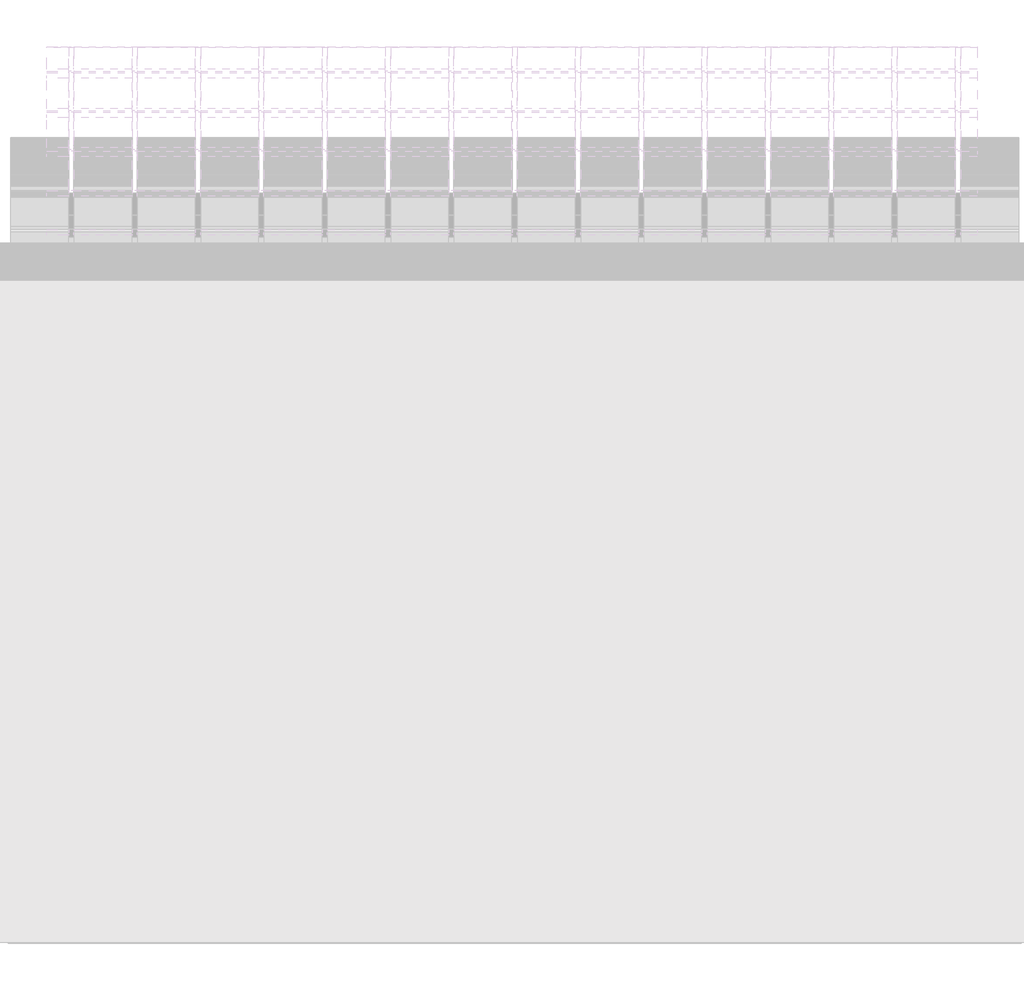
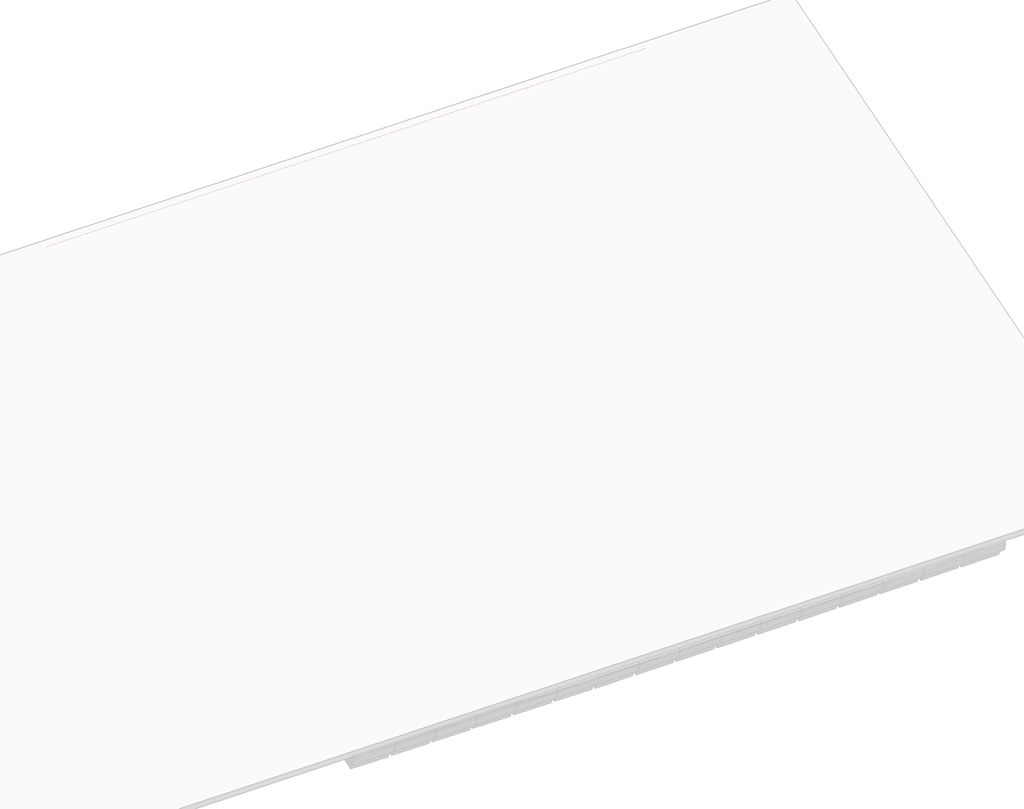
# One storey, part 46 of 57: 81 members, 43 plates.
"""IFC4 building model written with IfcOpenShell, lengths in millimetres."""

from ifc_helpers import new_model, si_unit, origin, place, context, project, spatial, transform, mapped, element, save
from components import rectangular_mullion_59984080, rectangular_mullion_2d2423ea, rectangular_mullion_caibro_e4384bba, rectangular_mullion_caibro_0993a3cf, rectangular_mullion_caibro_9bd7bc61, empty_system_panel_vazio_178faf58, empty_system_panel_vazio_2c78850d

model = new_model("IFC4")

# Units and contexts
model_context = context("Model", 3, world=origin())
ifc_project = project(units=[si_unit("LENGTHUNIT", "METRE", prefix="MILLI")], contexts=[model_context])

# Site, building, storey
site = spatial("IfcSite", under=ifc_project)
building = spatial("IfcBuilding", under=site)
storey = spatial("IfcBuildingStorey", under=building, Name="Nível 2", Elevation=4100.0)

# Members
placement = place(None, origin())
rectangular_mullion_shape = rectangular_mullion_59984080(model_context)
element("IfcMember", 1, ObjectType="Rectangular Mullion : Ripa", at=placement, inside=storey, context=model_context, shape_type="MappedRepresentation", body=[
    mapped(rectangular_mullion_shape, transform((36405.8565248, 8162.5832694, 3598.8241594), x_axis=(0.0, 0.9578262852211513, 0.2873478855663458), y_axis=(0.0, 0.2873478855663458, -0.9578262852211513), z_axis=(-1.0, 0.0, 0.0))),
])
element("IfcMember", 2, ObjectType="Rectangular Mullion : Ripa", at=placement, inside=storey, context=model_context, shape_type="MappedRepresentation", body=[
    mapped(rectangular_mullion_shape, transform((37002.9112812, 8162.5832694, 3598.8241594), x_axis=(0.0, 0.9578262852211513, 0.2873478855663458), y_axis=(0.0, 0.2873478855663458, -0.9578262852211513), z_axis=(-1.0, 0.0, 0.0))),
])
element("IfcMember", 3, ObjectType="Rectangular Mullion : Ripa", at=placement, inside=storey, context=model_context, shape_type="MappedRepresentation", body=[
    mapped(rectangular_mullion_shape, transform((37599.9660377, 8162.5832694, 3598.8241594), x_axis=(0.0, 0.9578262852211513, 0.2873478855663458), y_axis=(0.0, 0.2873478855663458, -0.9578262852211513), z_axis=(-1.0, 0.0, 0.0))),
])
element("IfcMember", 4, ObjectType="Rectangular Mullion : Ripa", at=placement, inside=storey, context=model_context, shape_type="MappedRepresentation", body=[
    mapped(rectangular_mullion_shape, transform((36405.8565248, 8532.7605281, 3709.877337), x_axis=(0.0, 0.9578262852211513, 0.2873478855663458), y_axis=(0.0, 0.2873478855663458, -0.9578262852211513), z_axis=(-1.0, 0.0, 0.0))),
])
element("IfcMember", 5, ObjectType="Rectangular Mullion : Ripa", at=placement, inside=storey, context=model_context, shape_type="MappedRepresentation", body=[
    mapped(rectangular_mullion_shape, transform((37002.9112812, 8532.7605281, 3709.877337), x_axis=(0.0, 0.9578262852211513, 0.2873478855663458), y_axis=(0.0, 0.2873478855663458, -0.9578262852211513), z_axis=(-1.0, 0.0, 0.0))),
])
element("IfcMember", 6, ObjectType="Rectangular Mullion : Ripa", at=placement, inside=storey, context=model_context, shape_type="MappedRepresentation", body=[
    mapped(rectangular_mullion_shape, transform((37599.9660377, 8532.7605281, 3709.877337), x_axis=(0.0, 0.9578262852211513, 0.2873478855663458), y_axis=(0.0, 0.2873478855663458, -0.9578262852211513), z_axis=(-1.0, 0.0, 0.0))),
])
element("IfcMember", 7, ObjectType="Rectangular Mullion : Ripa", at=placement, inside=storey, context=model_context, shape_type="MappedRepresentation", body=[
    mapped(rectangular_mullion_shape, transform((36405.8565248, 8902.9377868, 3820.9305146), x_axis=(0.0, 0.9578262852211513, 0.2873478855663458), y_axis=(0.0, 0.2873478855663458, -0.9578262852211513), z_axis=(-1.0, 0.0, 0.0))),
])
element("IfcMember", 8, ObjectType="Rectangular Mullion : Ripa", at=placement, inside=storey, context=model_context, shape_type="MappedRepresentation", body=[
    mapped(rectangular_mullion_shape, transform((37002.9112812, 8902.9377868, 3820.9305146), x_axis=(0.0, 0.9578262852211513, 0.2873478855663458), y_axis=(0.0, 0.2873478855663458, -0.9578262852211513), z_axis=(-1.0, 0.0, 0.0))),
])
element("IfcMember", 9, ObjectType="Rectangular Mullion : Ripa", at=placement, inside=storey, context=model_context, shape_type="MappedRepresentation", body=[
    mapped(rectangular_mullion_shape, transform((37599.9660377, 8902.9377868, 3820.9305146), x_axis=(0.0, 0.9578262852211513, 0.2873478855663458), y_axis=(0.0, 0.2873478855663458, -0.9578262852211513), z_axis=(-1.0, 0.0, 0.0))),
])
element("IfcMember", 10, ObjectType="Rectangular Mullion : Ripa", at=placement, inside=storey, context=model_context, shape_type="MappedRepresentation", body=[
    mapped(rectangular_mullion_shape, transform((36405.8565248, 9273.1150454, 3931.9836922), x_axis=(0.0, 0.9578262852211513, 0.2873478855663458), y_axis=(0.0, 0.2873478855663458, -0.9578262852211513), z_axis=(-1.0, 0.0, 0.0))),
])
element("IfcMember", 11, ObjectType="Rectangular Mullion : Ripa", at=placement, inside=storey, context=model_context, shape_type="MappedRepresentation", body=[
    mapped(rectangular_mullion_shape, transform((36405.8565248, 9643.2923041, 4043.0368698), x_axis=(0.0, 0.9578262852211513, 0.2873478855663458), y_axis=(0.0, 0.2873478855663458, -0.9578262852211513), z_axis=(-1.0, 0.0, 0.0))),
])
element("IfcMember", 12, ObjectType="Rectangular Mullion : Ripa", at=placement, inside=storey, context=model_context, shape_type="MappedRepresentation", body=[
    mapped(rectangular_mullion_shape, transform((34017.6374991, 10013.4695628, 4154.0900474), x_axis=(0.0, 0.9578262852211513, 0.2873478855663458), y_axis=(0.0, 0.2873478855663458, -0.9578262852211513), z_axis=(-1.0, 0.0, 0.0))),
])
element("IfcMember", 13, ObjectType="Rectangular Mullion : Ripa", at=placement, inside=storey, context=model_context, shape_type="MappedRepresentation", body=[
    mapped(rectangular_mullion_shape, transform((34614.6922555, 10013.4695628, 4154.0900474), x_axis=(0.0, 0.9578262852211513, 0.2873478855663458), y_axis=(0.0, 0.2873478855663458, -0.9578262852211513), z_axis=(-1.0, 0.0, 0.0))),
])
element("IfcMember", 14, ObjectType="Rectangular Mullion : Ripa", at=placement, inside=storey, context=model_context, shape_type="MappedRepresentation", body=[
    mapped(rectangular_mullion_shape, transform((35211.747012, 10013.4695628, 4154.0900474), x_axis=(0.0, 0.9578262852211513, 0.2873478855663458), y_axis=(0.0, 0.2873478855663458, -0.9578262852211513), z_axis=(-1.0, 0.0, 0.0))),
])
element("IfcMember", 15, ObjectType="Rectangular Mullion : Ripa", at=placement, inside=storey, context=model_context, shape_type="MappedRepresentation", body=[
    mapped(rectangular_mullion_shape, transform((35808.8017684, 10013.4695628, 4154.0900474), x_axis=(0.0, 0.9578262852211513, 0.2873478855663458), y_axis=(0.0, 0.2873478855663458, -0.9578262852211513), z_axis=(-1.0, 0.0, 0.0))),
])
element("IfcMember", 16, ObjectType="Rectangular Mullion : Ripa", at=placement, inside=storey, context=model_context, shape_type="MappedRepresentation", body=[
    mapped(rectangular_mullion_shape, transform((34017.6374991, 10383.6468214, 4265.143225), x_axis=(0.0, 0.9578262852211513, 0.2873478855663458), y_axis=(0.0, 0.2873478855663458, -0.9578262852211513), z_axis=(-1.0, 0.0, 0.0))),
])
element("IfcMember", 17, ObjectType="Rectangular Mullion : Ripa", at=placement, inside=storey, context=model_context, shape_type="MappedRepresentation", body=[
    mapped(rectangular_mullion_shape, transform((34614.6922555, 10383.6468214, 4265.143225), x_axis=(0.0, 0.9578262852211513, 0.2873478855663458), y_axis=(0.0, 0.2873478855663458, -0.9578262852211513), z_axis=(-1.0, 0.0, 0.0))),
])
element("IfcMember", 18, ObjectType="Rectangular Mullion : Ripa", at=placement, inside=storey, context=model_context, shape_type="MappedRepresentation", body=[
    mapped(rectangular_mullion_shape, transform((35211.747012, 10383.6468214, 4265.143225), x_axis=(0.0, 0.9578262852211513, 0.2873478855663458), y_axis=(0.0, 0.2873478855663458, -0.9578262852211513), z_axis=(-1.0, 0.0, 0.0))),
])
element("IfcMember", 19, ObjectType="Rectangular Mullion : Ripa", at=placement, inside=storey, context=model_context, shape_type="MappedRepresentation", body=[
    mapped(rectangular_mullion_shape, transform((35808.8017684, 10383.6468214, 4265.143225), x_axis=(0.0, 0.9578262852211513, 0.2873478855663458), y_axis=(0.0, 0.2873478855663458, -0.9578262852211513), z_axis=(-1.0, 0.0, 0.0))),
])
element("IfcMember", 20, ObjectType="Rectangular Mullion : Ripa", at=placement, inside=storey, context=model_context, shape_type="MappedRepresentation", body=[
    mapped(rectangular_mullion_shape, transform((34017.6374991, 10753.8240801, 4376.1964026), x_axis=(0.0, 0.9578262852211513, 0.2873478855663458), y_axis=(0.0, 0.2873478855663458, -0.9578262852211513), z_axis=(-1.0, 0.0, 0.0))),
])
element("IfcMember", 21, ObjectType="Rectangular Mullion : Ripa", at=placement, inside=storey, context=model_context, shape_type="MappedRepresentation", body=[
    mapped(rectangular_mullion_shape, transform((34614.6922555, 10753.8240801, 4376.1964026), x_axis=(0.0, 0.9578262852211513, 0.2873478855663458), y_axis=(0.0, 0.2873478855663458, -0.9578262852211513), z_axis=(-1.0, 0.0, 0.0))),
])
element("IfcMember", 22, ObjectType="Rectangular Mullion : Ripa", at=placement, inside=storey, context=model_context, shape_type="MappedRepresentation", body=[
    mapped(rectangular_mullion_shape, transform((35211.747012, 10753.8240801, 4376.1964026), x_axis=(0.0, 0.9578262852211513, 0.2873478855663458), y_axis=(0.0, 0.2873478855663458, -0.9578262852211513), z_axis=(-1.0, 0.0, 0.0))),
])
element("IfcMember", 23, ObjectType="Rectangular Mullion : Ripa", at=placement, inside=storey, context=model_context, shape_type="MappedRepresentation", body=[
    mapped(rectangular_mullion_shape, transform((35808.8017684, 10753.8240801, 4376.1964026), x_axis=(0.0, 0.9578262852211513, 0.2873478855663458), y_axis=(0.0, 0.2873478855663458, -0.9578262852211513), z_axis=(-1.0, 0.0, 0.0))),
])
element("IfcMember", 24, ObjectType="Rectangular Mullion : Ripa", at=placement, inside=storey, context=model_context, shape_type="MappedRepresentation", body=[
    mapped(rectangular_mullion_shape, transform((34017.6374991, 11124.0013387, 4487.2495802), x_axis=(0.0, 0.9578262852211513, 0.2873478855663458), y_axis=(0.0, 0.2873478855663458, -0.9578262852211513), z_axis=(-1.0, 0.0, 0.0))),
])
element("IfcMember", 25, ObjectType="Rectangular Mullion : Ripa", at=placement, inside=storey, context=model_context, shape_type="MappedRepresentation", body=[
    mapped(rectangular_mullion_shape, transform((34614.6922555, 11124.0013387, 4487.2495802), x_axis=(0.0, 0.9578262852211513, 0.2873478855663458), y_axis=(0.0, 0.2873478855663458, -0.9578262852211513), z_axis=(-1.0, 0.0, 0.0))),
])
element("IfcMember", 26, ObjectType="Rectangular Mullion : Ripa", at=placement, inside=storey, context=model_context, shape_type="MappedRepresentation", body=[
    mapped(rectangular_mullion_shape, transform((35211.747012, 11124.0013387, 4487.2495802), x_axis=(0.0, 0.9578262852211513, 0.2873478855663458), y_axis=(0.0, 0.2873478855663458, -0.9578262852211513), z_axis=(-1.0, 0.0, 0.0))),
])
element("IfcMember", 27, ObjectType="Rectangular Mullion : Ripa", at=placement, inside=storey, context=model_context, shape_type="MappedRepresentation", body=[
    mapped(rectangular_mullion_shape, transform((35808.8017684, 11124.0013387, 4487.2495802), x_axis=(0.0, 0.9578262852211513, 0.2873478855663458), y_axis=(0.0, 0.2873478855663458, -0.9578262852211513), z_axis=(-1.0, 0.0, 0.0))),
])
element("IfcMember", 28, ObjectType="Rectangular Mullion : Ripa", at=placement, inside=storey, context=model_context, shape_type="MappedRepresentation", body=[
    mapped(rectangular_mullion_shape, transform((34017.6374991, 11494.1785974, 4598.3027578), x_axis=(0.0, 0.9578262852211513, 0.2873478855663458), y_axis=(0.0, 0.2873478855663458, -0.9578262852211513), z_axis=(-1.0, 0.0, 0.0))),
])
element("IfcMember", 29, ObjectType="Rectangular Mullion : Ripa", at=placement, inside=storey, context=model_context, shape_type="MappedRepresentation", body=[
    mapped(rectangular_mullion_shape, transform((34614.6922555, 11494.1785974, 4598.3027578), x_axis=(0.0, 0.9578262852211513, 0.2873478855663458), y_axis=(0.0, 0.2873478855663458, -0.9578262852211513), z_axis=(-1.0, 0.0, 0.0))),
])
element("IfcMember", 30, ObjectType="Rectangular Mullion : Ripa", at=placement, inside=storey, context=model_context, shape_type="MappedRepresentation", body=[
    mapped(rectangular_mullion_shape, transform((35211.747012, 11494.1785974, 4598.3027578), x_axis=(0.0, 0.9578262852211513, 0.2873478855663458), y_axis=(0.0, 0.2873478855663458, -0.9578262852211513), z_axis=(-1.0, 0.0, 0.0))),
])
element("IfcMember", 31, ObjectType="Rectangular Mullion : Ripa", at=placement, inside=storey, context=model_context, shape_type="MappedRepresentation", body=[
    mapped(rectangular_mullion_shape, transform((35808.8017684, 11494.1785974, 4598.3027578), x_axis=(0.0, 0.9578262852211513, 0.2873478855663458), y_axis=(0.0, 0.2873478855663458, -0.9578262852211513), z_axis=(-1.0, 0.0, 0.0))),
])
element("IfcMember", 32, ObjectType="Rectangular Mullion : Ripa", at=placement, inside=storey, context=model_context, shape_type="MappedRepresentation", body=[
    mapped(rectangular_mullion_shape, transform((34017.6374991, 11864.3558561, 4709.3559354), x_axis=(0.0, 0.9578262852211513, 0.2873478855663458), y_axis=(0.0, 0.2873478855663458, -0.9578262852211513), z_axis=(-1.0, 0.0, 0.0))),
])
element("IfcMember", 33, ObjectType="Rectangular Mullion : Ripa", at=placement, inside=storey, context=model_context, shape_type="MappedRepresentation", body=[
    mapped(rectangular_mullion_shape, transform((34614.6922555, 11864.3558561, 4709.3559354), x_axis=(0.0, 0.9578262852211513, 0.2873478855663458), y_axis=(0.0, 0.2873478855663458, -0.9578262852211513), z_axis=(-1.0, 0.0, 0.0))),
])
element("IfcMember", 34, ObjectType="Rectangular Mullion : Ripa", at=placement, inside=storey, context=model_context, shape_type="MappedRepresentation", body=[
    mapped(rectangular_mullion_shape, transform((35211.747012, 11864.3558561, 4709.3559354), x_axis=(0.0, 0.9578262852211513, 0.2873478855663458), y_axis=(0.0, 0.2873478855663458, -0.9578262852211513), z_axis=(-1.0, 0.0, 0.0))),
])
element("IfcMember", 35, ObjectType="Rectangular Mullion : Ripa", at=placement, inside=storey, context=model_context, shape_type="MappedRepresentation", body=[
    mapped(rectangular_mullion_shape, transform((35808.8017684, 11864.3558561, 4709.3559354), x_axis=(0.0, 0.9578262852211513, 0.2873478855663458), y_axis=(0.0, 0.2873478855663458, -0.9578262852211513), z_axis=(-1.0, 0.0, 0.0))),
])
rectangular_mullion_2_shape = rectangular_mullion_2d2423ea(model_context)
element("IfcMember", 36, ObjectType="Rectangular Mullion : Terça", at=placement, inside=storey, context=model_context, shape_type="MappedRepresentation", body=[
    mapped(rectangular_mullion_2_shape, transform((36405.8565248, 9159.0196393, 3835.1132313), x_axis=(0.0, 0.9578262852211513, 0.2873478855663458), y_axis=(0.0, 0.2873478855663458, -0.9578262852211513), z_axis=(-1.0, 0.0, 0.0))),
])
element("IfcMember", 37, ObjectType="Rectangular Mullion : Terça", at=placement, inside=storey, context=model_context, shape_type="MappedRepresentation", body=[
    mapped(rectangular_mullion_2_shape, transform((33420.5827427, 11285.144311, 4472.9506328), x_axis=(0.0, 0.9578262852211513, 0.2873478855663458), y_axis=(0.0, 0.2873478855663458, -0.9578262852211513), z_axis=(-1.0, 0.0, 0.0))),
])
element("IfcMember", 38, ObjectType="Rectangular Mullion : Terça", at=placement, inside=storey, context=model_context, shape_type="MappedRepresentation", body=[
    mapped(rectangular_mullion_2_shape, transform((34017.6374991, 11285.144311, 4472.9506328), x_axis=(0.0, 0.9578262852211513, 0.2873478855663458), y_axis=(0.0, 0.2873478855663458, -0.9578262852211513), z_axis=(-1.0, 0.0, 0.0))),
])
element("IfcMember", 39, ObjectType="Rectangular Mullion : Terça", at=placement, inside=storey, context=model_context, shape_type="MappedRepresentation", body=[
    mapped(rectangular_mullion_2_shape, transform((34614.6922555, 11285.144311, 4472.9506328), x_axis=(0.0, 0.9578262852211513, 0.2873478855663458), y_axis=(0.0, 0.2873478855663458, -0.9578262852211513), z_axis=(-1.0, 0.0, 0.0))),
])
element("IfcMember", 40, ObjectType="Rectangular Mullion : Terça", at=placement, inside=storey, context=model_context, shape_type="MappedRepresentation", body=[
    mapped(rectangular_mullion_2_shape, transform((35211.747012, 11285.144311, 4472.9506328), x_axis=(0.0, 0.9578262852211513, 0.2873478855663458), y_axis=(0.0, 0.2873478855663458, -0.9578262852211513), z_axis=(-1.0, 0.0, 0.0))),
])
element("IfcMember", 41, ObjectType="Rectangular Mullion : Terça", at=placement, inside=storey, context=model_context, shape_type="MappedRepresentation", body=[
    mapped(rectangular_mullion_2_shape, transform((35808.8017684, 11285.144311, 4472.9506328), x_axis=(0.0, 0.9578262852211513, 0.2873478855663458), y_axis=(0.0, 0.2873478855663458, -0.9578262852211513), z_axis=(-1.0, 0.0, 0.0))),
])
rectangular_mullion_caibro_shape = rectangular_mullion_caibro_e4384bba(model_context)
element("IfcMember", 42, ObjectType="Rectangular Mullion : Caibro", at=placement, inside=storey, context=model_context, shape_type="MappedRepresentation", body=[
    mapped(rectangular_mullion_caibro_shape, transform((34589.6922555, 10013.4695628, 4154.0900474), x_axis=(1.0, 0.0, 0.0), y_axis=(0.0, 0.28734788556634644, -0.9578262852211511), z_axis=(0.0, 0.957826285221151, 0.2873478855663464))),
])
element("IfcMember", 43, ObjectType="Rectangular Mullion : Caibro", at=placement, inside=storey, context=model_context, shape_type="MappedRepresentation", body=[
    mapped(rectangular_mullion_caibro_shape, transform((34589.6922555, 10383.6468214, 4265.143225), x_axis=(1.0, 0.0, 0.0), y_axis=(0.0, 0.28734788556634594, -0.9578262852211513), z_axis=(0.0, 0.9578262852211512, 0.2873478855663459))),
])
element("IfcMember", 44, ObjectType="Rectangular Mullion : Caibro", at=placement, inside=storey, context=model_context, shape_type="MappedRepresentation", body=[
    mapped(rectangular_mullion_caibro_shape, transform((34589.6922555, 10753.8240801, 4376.1964026), x_axis=(1.0, 0.0, 0.0), y_axis=(0.0, 0.28734788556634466, -0.9578262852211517), z_axis=(0.0, 0.9578262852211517, 0.28734788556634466))),
])
element("IfcMember", 45, ObjectType="Rectangular Mullion : Caibro", at=placement, inside=storey, context=model_context, shape_type="MappedRepresentation", body=[
    mapped(rectangular_mullion_caibro_shape, transform((34589.6922555, 11124.0013387, 4487.2495802), x_axis=(1.0, 0.0, 0.0), y_axis=(0.0, 0.2873478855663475, -0.9578262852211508), z_axis=(0.0, 0.9578262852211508, 0.2873478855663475))),
])
element("IfcMember", 46, ObjectType="Rectangular Mullion : Caibro", at=placement, inside=storey, context=model_context, shape_type="MappedRepresentation", body=[
    mapped(rectangular_mullion_caibro_shape, transform((34589.6922555, 11494.1785974, 4598.3027578), x_axis=(1.0, 0.0, 0.0), y_axis=(0.0, 0.28734788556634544, -0.9578262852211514), z_axis=(0.0, 0.9578262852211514, 0.28734788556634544))),
])
element("IfcMember", 47, ObjectType="Rectangular Mullion : Caibro", at=placement, inside=storey, context=model_context, shape_type="MappedRepresentation", body=[
    mapped(rectangular_mullion_caibro_shape, transform((34589.6922555, 11864.3558561, 4709.3559354), x_axis=(1.0, 0.0, 0.0), y_axis=(0.0, 0.28734788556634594, -0.9578262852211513), z_axis=(0.0, 0.9578262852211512, 0.2873478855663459))),
])
element("IfcMember", 48, ObjectType="Rectangular Mullion : Caibro", at=placement, inside=storey, context=model_context, shape_type="MappedRepresentation", body=[
    mapped(rectangular_mullion_caibro_shape, transform((35186.747012, 10013.4695628, 4154.0900474), x_axis=(1.0, 0.0, 0.0), y_axis=(0.0, 0.28734788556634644, -0.9578262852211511), z_axis=(0.0, 0.957826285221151, 0.2873478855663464))),
])
element("IfcMember", 49, ObjectType="Rectangular Mullion : Caibro", at=placement, inside=storey, context=model_context, shape_type="MappedRepresentation", body=[
    mapped(rectangular_mullion_caibro_shape, transform((35186.747012, 10383.6468214, 4265.143225), x_axis=(1.0, 0.0, 0.0), y_axis=(0.0, 0.28734788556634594, -0.9578262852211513), z_axis=(0.0, 0.9578262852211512, 0.2873478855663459))),
])
element("IfcMember", 50, ObjectType="Rectangular Mullion : Caibro", at=placement, inside=storey, context=model_context, shape_type="MappedRepresentation", body=[
    mapped(rectangular_mullion_caibro_shape, transform((35186.747012, 10753.8240801, 4376.1964026), x_axis=(1.0, 0.0, 0.0), y_axis=(0.0, 0.28734788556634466, -0.9578262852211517), z_axis=(0.0, 0.9578262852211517, 0.28734788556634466))),
])
element("IfcMember", 51, ObjectType="Rectangular Mullion : Caibro", at=placement, inside=storey, context=model_context, shape_type="MappedRepresentation", body=[
    mapped(rectangular_mullion_caibro_shape, transform((35186.747012, 11124.0013387, 4487.2495802), x_axis=(1.0, 0.0, 0.0), y_axis=(0.0, 0.2873478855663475, -0.9578262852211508), z_axis=(0.0, 0.9578262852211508, 0.2873478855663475))),
])
element("IfcMember", 52, ObjectType="Rectangular Mullion : Caibro", at=placement, inside=storey, context=model_context, shape_type="MappedRepresentation", body=[
    mapped(rectangular_mullion_caibro_shape, transform((35186.747012, 11494.1785974, 4598.3027578), x_axis=(1.0, 0.0, 0.0), y_axis=(0.0, 0.28734788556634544, -0.9578262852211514), z_axis=(0.0, 0.9578262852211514, 0.28734788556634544))),
])
element("IfcMember", 53, ObjectType="Rectangular Mullion : Caibro", at=placement, inside=storey, context=model_context, shape_type="MappedRepresentation", body=[
    mapped(rectangular_mullion_caibro_shape, transform((35186.747012, 11864.3558561, 4709.3559354), x_axis=(1.0, 0.0, 0.0), y_axis=(0.0, 0.28734788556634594, -0.9578262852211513), z_axis=(0.0, 0.9578262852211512, 0.2873478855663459))),
])
element("IfcMember", 54, ObjectType="Rectangular Mullion : Caibro", at=placement, inside=storey, context=model_context, shape_type="MappedRepresentation", body=[
    mapped(rectangular_mullion_caibro_shape, transform((35783.8017684, 10013.4695628, 4154.0900474), x_axis=(1.0, 0.0, 0.0), y_axis=(0.0, 0.28734788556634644, -0.9578262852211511), z_axis=(0.0, 0.957826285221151, 0.2873478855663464))),
])
element("IfcMember", 55, ObjectType="Rectangular Mullion : Caibro", at=placement, inside=storey, context=model_context, shape_type="MappedRepresentation", body=[
    mapped(rectangular_mullion_caibro_shape, transform((35783.8017684, 10383.6468214, 4265.143225), x_axis=(1.0, 0.0, 0.0), y_axis=(0.0, 0.28734788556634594, -0.9578262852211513), z_axis=(0.0, 0.9578262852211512, 0.2873478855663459))),
])
element("IfcMember", 56, ObjectType="Rectangular Mullion : Caibro", at=placement, inside=storey, context=model_context, shape_type="MappedRepresentation", body=[
    mapped(rectangular_mullion_caibro_shape, transform((35783.8017684, 10753.8240801, 4376.1964026), x_axis=(1.0, 0.0, 0.0), y_axis=(0.0, 0.28734788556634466, -0.9578262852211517), z_axis=(0.0, 0.9578262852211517, 0.28734788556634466))),
])
element("IfcMember", 57, ObjectType="Rectangular Mullion : Caibro", at=placement, inside=storey, context=model_context, shape_type="MappedRepresentation", body=[
    mapped(rectangular_mullion_caibro_shape, transform((35783.8017684, 11124.0013387, 4487.2495802), x_axis=(1.0, 0.0, 0.0), y_axis=(0.0, 0.2873478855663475, -0.9578262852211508), z_axis=(0.0, 0.9578262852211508, 0.2873478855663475))),
])
element("IfcMember", 58, ObjectType="Rectangular Mullion : Caibro", at=placement, inside=storey, context=model_context, shape_type="MappedRepresentation", body=[
    mapped(rectangular_mullion_caibro_shape, transform((35783.8017684, 11494.1785974, 4598.3027578), x_axis=(1.0, 0.0, 0.0), y_axis=(0.0, 0.28734788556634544, -0.9578262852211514), z_axis=(0.0, 0.9578262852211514, 0.28734788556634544))),
])
element("IfcMember", 59, ObjectType="Rectangular Mullion : Caibro", at=placement, inside=storey, context=model_context, shape_type="MappedRepresentation", body=[
    mapped(rectangular_mullion_caibro_shape, transform((35783.8017684, 11864.3558561, 4709.3559354), x_axis=(1.0, 0.0, 0.0), y_axis=(0.0, 0.28734788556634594, -0.9578262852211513), z_axis=(0.0, 0.9578262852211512, 0.2873478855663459))),
])
element("IfcMember", 60, ObjectType="Rectangular Mullion : Caibro", at=placement, inside=storey, context=model_context, shape_type="MappedRepresentation", body=[
    mapped(rectangular_mullion_caibro_shape, transform((36380.8565248, 8162.5832694, 3598.8241594), x_axis=(1.0, 0.0, 0.0), y_axis=(0.0, 0.28734788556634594, -0.9578262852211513), z_axis=(0.0, 0.9578262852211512, 0.2873478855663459))),
])
element("IfcMember", 61, ObjectType="Rectangular Mullion : Caibro", at=placement, inside=storey, context=model_context, shape_type="MappedRepresentation", body=[
    mapped(rectangular_mullion_caibro_shape, transform((36380.8565248, 8532.7605281, 3709.877337), x_axis=(1.0, 0.0, 0.0), y_axis=(0.0, 0.2873478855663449, -0.9578262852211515), z_axis=(0.0, 0.9578262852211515, 0.2873478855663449))),
])
element("IfcMember", 62, ObjectType="Rectangular Mullion : Caibro", at=placement, inside=storey, context=model_context, shape_type="MappedRepresentation", body=[
    mapped(rectangular_mullion_caibro_shape, transform((36380.8565248, 8902.9377868, 3820.9305146), x_axis=(1.0, 0.0, 0.0), y_axis=(0.0, 0.2873478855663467, -0.9578262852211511), z_axis=(0.0, 0.9578262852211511, 0.2873478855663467))),
])
element("IfcMember", 63, ObjectType="Rectangular Mullion : Caibro", at=placement, inside=storey, context=model_context, shape_type="MappedRepresentation", body=[
    mapped(rectangular_mullion_caibro_shape, transform((36380.8565248, 9273.1150454, 3931.9836922), x_axis=(1.0, 0.0, 0.0), y_axis=(0.0, 0.2873478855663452, -0.9578262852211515), z_axis=(0.0, 0.9578262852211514, 0.28734788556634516))),
])
element("IfcMember", 64, ObjectType="Rectangular Mullion : Caibro", at=placement, inside=storey, context=model_context, shape_type="MappedRepresentation", body=[
    mapped(rectangular_mullion_caibro_shape, transform((36380.8565248, 9643.2923041, 4043.0368698), x_axis=(1.0, 0.0, 0.0), y_axis=(0.0, 0.2873478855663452, -0.9578262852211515), z_axis=(0.0, 0.9578262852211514, 0.28734788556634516))),
])
element("IfcMember", 65, ObjectType="Rectangular Mullion : Caibro", at=placement, inside=storey, context=model_context, shape_type="MappedRepresentation", body=[
    mapped(rectangular_mullion_caibro_shape, transform((36977.9112812, 8162.5832694, 3598.8241594), x_axis=(1.0, 0.0, 0.0), y_axis=(0.0, 0.28734788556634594, -0.9578262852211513), z_axis=(0.0, 0.9578262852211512, 0.2873478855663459))),
])
element("IfcMember", 66, ObjectType="Rectangular Mullion : Caibro", at=placement, inside=storey, context=model_context, shape_type="MappedRepresentation", body=[
    mapped(rectangular_mullion_caibro_shape, transform((36977.9112812, 8532.7605281, 3709.877337), x_axis=(1.0, 0.0, 0.0), y_axis=(0.0, 0.2873478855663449, -0.9578262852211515), z_axis=(0.0, 0.9578262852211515, 0.2873478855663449))),
])
element("IfcMember", 67, ObjectType="Rectangular Mullion : Caibro", at=placement, inside=storey, context=model_context, shape_type="MappedRepresentation", body=[
    mapped(rectangular_mullion_caibro_shape, transform((36977.9112812, 8902.9377868, 3820.9305146), x_axis=(1.0, 0.0, 0.0), y_axis=(0.0, 0.2873478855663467, -0.9578262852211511), z_axis=(0.0, 0.9578262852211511, 0.2873478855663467))),
])
element("IfcMember", 68, ObjectType="Rectangular Mullion : Caibro", at=placement, inside=storey, context=model_context, shape_type="MappedRepresentation", body=[
    mapped(rectangular_mullion_caibro_shape, transform((36977.9112812, 9273.1150454, 3931.9836922), x_axis=(1.0, 0.0, 0.0), y_axis=(0.0, 0.2873478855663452, -0.9578262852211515), z_axis=(0.0, 0.9578262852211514, 0.28734788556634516))),
])
element("IfcMember", 69, ObjectType="Rectangular Mullion : Caibro", at=placement, inside=storey, context=model_context, shape_type="MappedRepresentation", body=[
    mapped(rectangular_mullion_caibro_shape, transform((36977.9112812, 9643.2923041, 4043.0368698), x_axis=(1.0, 0.0, 0.0), y_axis=(0.0, 0.2873478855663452, -0.9578262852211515), z_axis=(0.0, 0.9578262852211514, 0.28734788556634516))),
])
element("IfcMember", 70, ObjectType="Rectangular Mullion : Caibro", at=placement, inside=storey, context=model_context, shape_type="MappedRepresentation", body=[
    mapped(rectangular_mullion_caibro_shape, transform((37574.9660377, 8162.5832694, 3598.8241594), x_axis=(1.0, 0.0, 0.0), y_axis=(0.0, 0.28734788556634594, -0.9578262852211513), z_axis=(0.0, 0.9578262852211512, 0.2873478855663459))),
])
element("IfcMember", 71, ObjectType="Rectangular Mullion : Caibro", at=placement, inside=storey, context=model_context, shape_type="MappedRepresentation", body=[
    mapped(rectangular_mullion_caibro_shape, transform((37574.9660377, 8532.7605281, 3709.877337), x_axis=(1.0, 0.0, 0.0), y_axis=(0.0, 0.2873478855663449, -0.9578262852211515), z_axis=(0.0, 0.9578262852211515, 0.2873478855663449))),
])
element("IfcMember", 72, ObjectType="Rectangular Mullion : Caibro", at=placement, inside=storey, context=model_context, shape_type="MappedRepresentation", body=[
    mapped(rectangular_mullion_caibro_shape, transform((37574.9660377, 8902.9377868, 3820.9305146), x_axis=(1.0, 0.0, 0.0), y_axis=(0.0, 0.2873478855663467, -0.9578262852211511), z_axis=(0.0, 0.9578262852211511, 0.2873478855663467))),
])
element("IfcMember", 73, ObjectType="Rectangular Mullion : Caibro", at=placement, inside=storey, context=model_context, shape_type="MappedRepresentation", body=[
    mapped(rectangular_mullion_caibro_shape, transform((37574.9660377, 9273.1150454, 3931.9836922), x_axis=(1.0, 0.0, 0.0), y_axis=(0.0, 0.2873478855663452, -0.9578262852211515), z_axis=(0.0, 0.9578262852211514, 0.28734788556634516))),
])
element("IfcMember", 74, ObjectType="Rectangular Mullion : Caibro", at=placement, inside=storey, context=model_context, shape_type="MappedRepresentation", body=[
    mapped(rectangular_mullion_caibro_shape, transform((37574.9660377, 9643.2923041, 4043.0368698), x_axis=(1.0, 0.0, 0.0), y_axis=(0.0, 0.2873478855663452, -0.9578262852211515), z_axis=(0.0, 0.9578262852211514, 0.28734788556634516))),
])
rectangular_mullion_caibro_2_shape = rectangular_mullion_caibro_0993a3cf(model_context)
element("IfcMember", 75, ObjectType="Rectangular Mullion : Caibro", at=placement, inside=storey, context=model_context, shape_type="MappedRepresentation", body=[
    mapped(rectangular_mullion_caibro_2_shape, transform((36380.8565248, 9159.0196393, 3835.1132313), x_axis=(1.0, 0.0, 0.0), y_axis=(0.0, 0.2873478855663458, -0.9578262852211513), z_axis=(0.0, 0.9578262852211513, 0.2873478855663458))),
])
element("IfcMember", 76, ObjectType="Rectangular Mullion : Caibro", at=placement, inside=storey, context=model_context, shape_type="MappedRepresentation", body=[
    mapped(rectangular_mullion_caibro_2_shape, transform((36977.9112812, 9159.0196393, 3835.1132313), x_axis=(1.0, 0.0, 0.0), y_axis=(0.0, 0.2873478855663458, -0.9578262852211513), z_axis=(0.0, 0.9578262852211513, 0.2873478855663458))),
])
rectangular_mullion_caibro_3_shape = rectangular_mullion_caibro_9bd7bc61(model_context)
element("IfcMember", 77, ObjectType="Rectangular Mullion : Caibro", at=placement, inside=storey, context=model_context, shape_type="MappedRepresentation", body=[
    mapped(rectangular_mullion_caibro_3_shape, transform((33395.5827427, 11285.144311, 4472.9506328), x_axis=(1.0, 0.0, 0.0), y_axis=(0.0, 0.28734788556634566, -0.9578262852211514), z_axis=(0.0, 0.9578262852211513, 0.2873478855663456))),
])
element("IfcMember", 78, ObjectType="Rectangular Mullion : Caibro", at=placement, inside=storey, context=model_context, shape_type="MappedRepresentation", body=[
    mapped(rectangular_mullion_caibro_3_shape, transform((33992.6374991, 11285.144311, 4472.9506328), x_axis=(1.0, 0.0, 0.0), y_axis=(0.0, 0.28734788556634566, -0.9578262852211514), z_axis=(0.0, 0.9578262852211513, 0.2873478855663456))),
])
element("IfcMember", 79, ObjectType="Rectangular Mullion : Caibro", at=placement, inside=storey, context=model_context, shape_type="MappedRepresentation", body=[
    mapped(rectangular_mullion_caibro_3_shape, transform((34589.6922555, 11285.144311, 4472.9506328), x_axis=(1.0, 0.0, 0.0), y_axis=(0.0, 0.28734788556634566, -0.9578262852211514), z_axis=(0.0, 0.9578262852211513, 0.2873478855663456))),
])
element("IfcMember", 80, ObjectType="Rectangular Mullion : Caibro", at=placement, inside=storey, context=model_context, shape_type="MappedRepresentation", body=[
    mapped(rectangular_mullion_caibro_3_shape, transform((35186.747012, 11285.144311, 4472.9506328), x_axis=(1.0, 0.0, 0.0), y_axis=(0.0, 0.28734788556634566, -0.9578262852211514), z_axis=(0.0, 0.9578262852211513, 0.2873478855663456))),
])
element("IfcMember", 81, ObjectType="Rectangular Mullion : Caibro", at=placement, inside=storey, context=model_context, shape_type="MappedRepresentation", body=[
    mapped(rectangular_mullion_caibro_3_shape, transform((35783.8017684, 11285.144311, 4472.9506328), x_axis=(1.0, 0.0, 0.0), y_axis=(0.0, 0.28734788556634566, -0.9578262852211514), z_axis=(0.0, 0.9578262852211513, 0.2873478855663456))),
])

# Plates
empty_system_panel_vazio_shape = empty_system_panel_vazio_178faf58(model_context)
element("IfcPlate", 82, ObjectType="Empty System Panel : Vazio", at=placement, inside=storey, context=model_context, shape_type="MappedRepresentation", body=[
    mapped(empty_system_panel_vazio_shape, transform((36082.3291466, 8162.5832694, 3598.8241594), x_axis=(1.0, 0.0, 0.0), y_axis=(0.0, 0.2873478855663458, -0.9578262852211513), z_axis=(0.0, 0.9578262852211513, 0.2873478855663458))),
])
element("IfcPlate", 83, ObjectType="Empty System Panel : Vazio", at=placement, inside=storey, context=model_context, shape_type="MappedRepresentation", body=[
    mapped(empty_system_panel_vazio_shape, transform((36679.383903, 8162.5832694, 3598.8241594), x_axis=(1.0, 0.0, 0.0), y_axis=(0.0, 0.2873478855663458, -0.9578262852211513), z_axis=(0.0, 0.9578262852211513, 0.2873478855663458))),
])
element("IfcPlate", 84, ObjectType="Empty System Panel : Vazio", at=placement, inside=storey, context=model_context, shape_type="MappedRepresentation", body=[
    mapped(empty_system_panel_vazio_shape, transform((37276.4386594, 8162.5832694, 3598.8241594), x_axis=(1.0, 0.0, 0.0), y_axis=(0.0, 0.2873478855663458, -0.9578262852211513), z_axis=(0.0, 0.9578262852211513, 0.2873478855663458))),
])
element("IfcPlate", 85, ObjectType="Empty System Panel : Vazio", at=placement, inside=storey, context=model_context, shape_type="MappedRepresentation", body=[
    mapped(empty_system_panel_vazio_shape, transform((37873.4934159, 8162.5832694, 3598.8241594), x_axis=(1.0, 0.0, 0.0), y_axis=(0.0, 0.2873478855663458, -0.9578262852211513), z_axis=(0.0, 0.9578262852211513, 0.2873478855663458))),
])
element("IfcPlate", 86, ObjectType="Empty System Panel : Vazio", at=placement, inside=storey, context=model_context, shape_type="MappedRepresentation", body=[
    mapped(empty_system_panel_vazio_shape, transform((36082.3291466, 8532.7605281, 3709.877337), x_axis=(1.0, 0.0, 0.0), y_axis=(0.0, 0.2873478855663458, -0.9578262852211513), z_axis=(0.0, 0.9578262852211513, 0.2873478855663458))),
])
element("IfcPlate", 87, ObjectType="Empty System Panel : Vazio", at=placement, inside=storey, context=model_context, shape_type="MappedRepresentation", body=[
    mapped(empty_system_panel_vazio_shape, transform((36679.383903, 8532.7605281, 3709.877337), x_axis=(1.0, 0.0, 0.0), y_axis=(0.0, 0.2873478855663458, -0.9578262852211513), z_axis=(0.0, 0.9578262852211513, 0.2873478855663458))),
])
element("IfcPlate", 88, ObjectType="Empty System Panel : Vazio", at=placement, inside=storey, context=model_context, shape_type="MappedRepresentation", body=[
    mapped(empty_system_panel_vazio_shape, transform((37276.4386594, 8532.7605281, 3709.877337), x_axis=(1.0, 0.0, 0.0), y_axis=(0.0, 0.2873478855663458, -0.9578262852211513), z_axis=(0.0, 0.9578262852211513, 0.2873478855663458))),
])
element("IfcPlate", 89, ObjectType="Empty System Panel : Vazio", at=placement, inside=storey, context=model_context, shape_type="MappedRepresentation", body=[
    mapped(empty_system_panel_vazio_shape, transform((37873.4934159, 8532.7605281, 3709.877337), x_axis=(1.0, 0.0, 0.0), y_axis=(0.0, 0.2873478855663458, -0.9578262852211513), z_axis=(0.0, 0.9578262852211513, 0.2873478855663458))),
])
element("IfcPlate", 90, ObjectType="Empty System Panel : Vazio", at=placement, inside=storey, context=model_context, shape_type="MappedRepresentation", body=[
    mapped(empty_system_panel_vazio_shape, transform((36082.3291466, 8902.9377868, 3820.9305146), x_axis=(1.0, 0.0, 0.0), y_axis=(0.0, 0.2873478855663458, -0.9578262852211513), z_axis=(0.0, 0.9578262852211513, 0.2873478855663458))),
])
element("IfcPlate", 91, ObjectType="Empty System Panel : Vazio", at=placement, inside=storey, context=model_context, shape_type="MappedRepresentation", body=[
    mapped(empty_system_panel_vazio_shape, transform((36679.383903, 8902.9377868, 3820.9305146), x_axis=(1.0, 0.0, 0.0), y_axis=(0.0, 0.2873478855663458, -0.9578262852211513), z_axis=(0.0, 0.9578262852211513, 0.2873478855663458))),
])
element("IfcPlate", 92, ObjectType="Empty System Panel : Vazio", at=placement, inside=storey, context=model_context, shape_type="MappedRepresentation", body=[
    mapped(empty_system_panel_vazio_shape, transform((37276.4386594, 8902.9377868, 3820.9305146), x_axis=(1.0, 0.0, 0.0), y_axis=(0.0, 0.2873478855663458, -0.9578262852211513), z_axis=(0.0, 0.9578262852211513, 0.2873478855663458))),
])
element("IfcPlate", 93, ObjectType="Empty System Panel : Vazio", at=placement, inside=storey, context=model_context, shape_type="MappedRepresentation", body=[
    mapped(empty_system_panel_vazio_shape, transform((37873.4934159, 8902.9377868, 3820.9305146), x_axis=(1.0, 0.0, 0.0), y_axis=(0.0, 0.2873478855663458, -0.9578262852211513), z_axis=(0.0, 0.9578262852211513, 0.2873478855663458))),
])
element("IfcPlate", 94, ObjectType="Empty System Panel : Vazio", at=placement, inside=storey, context=model_context, shape_type="MappedRepresentation", body=[
    mapped(empty_system_panel_vazio_shape, transform((36082.3291466, 9273.1150454, 3931.9836922), x_axis=(1.0, 0.0, 0.0), y_axis=(0.0, 0.2873478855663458, -0.9578262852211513), z_axis=(0.0, 0.9578262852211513, 0.2873478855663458))),
])
element("IfcPlate", 95, ObjectType="Empty System Panel : Vazio", at=placement, inside=storey, context=model_context, shape_type="MappedRepresentation", body=[
    mapped(empty_system_panel_vazio_shape, transform((36679.383903, 9273.1150454, 3931.9836922), x_axis=(1.0, 0.0, 0.0), y_axis=(0.0, 0.2873478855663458, -0.9578262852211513), z_axis=(0.0, 0.9578262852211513, 0.2873478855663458))),
])
element("IfcPlate", 96, ObjectType="Empty System Panel : Vazio", at=placement, inside=storey, context=model_context, shape_type="MappedRepresentation", body=[
    mapped(empty_system_panel_vazio_shape, transform((37276.4386594, 9273.1150454, 3931.9836922), x_axis=(1.0, 0.0, 0.0), y_axis=(0.0, 0.2873478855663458, -0.9578262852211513), z_axis=(0.0, 0.9578262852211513, 0.2873478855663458))),
])
element("IfcPlate", 97, ObjectType="Empty System Panel : Vazio", at=placement, inside=storey, context=model_context, shape_type="MappedRepresentation", body=[
    mapped(empty_system_panel_vazio_shape, transform((37873.4934159, 9273.1150454, 3931.9836922), x_axis=(1.0, 0.0, 0.0), y_axis=(0.0, 0.2873478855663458, -0.9578262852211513), z_axis=(0.0, 0.9578262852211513, 0.2873478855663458))),
])
element("IfcPlate", 98, ObjectType="Empty System Panel : Vazio", at=placement, inside=storey, context=model_context, shape_type="MappedRepresentation", body=[
    mapped(empty_system_panel_vazio_shape, transform((36082.3291466, 9643.2923041, 4043.0368698), x_axis=(1.0, 0.0, 0.0), y_axis=(0.0, 0.2873478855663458, -0.9578262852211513), z_axis=(0.0, 0.9578262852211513, 0.2873478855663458))),
])
element("IfcPlate", 99, ObjectType="Empty System Panel : Vazio", at=placement, inside=storey, context=model_context, shape_type="MappedRepresentation", body=[
    mapped(empty_system_panel_vazio_shape, transform((36679.383903, 9643.2923041, 4043.0368698), x_axis=(1.0, 0.0, 0.0), y_axis=(0.0, 0.2873478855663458, -0.9578262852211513), z_axis=(0.0, 0.9578262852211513, 0.2873478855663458))),
])
element("IfcPlate", 100, ObjectType="Empty System Panel : Vazio", at=placement, inside=storey, context=model_context, shape_type="MappedRepresentation", body=[
    mapped(empty_system_panel_vazio_shape, transform((37276.4386594, 9643.2923041, 4043.0368698), x_axis=(1.0, 0.0, 0.0), y_axis=(0.0, 0.2873478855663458, -0.9578262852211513), z_axis=(0.0, 0.9578262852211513, 0.2873478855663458))),
])
element("IfcPlate", 101, ObjectType="Empty System Panel : Vazio", at=placement, inside=storey, context=model_context, shape_type="MappedRepresentation", body=[
    mapped(empty_system_panel_vazio_shape, transform((37873.4934159, 9643.2923041, 4043.0368698), x_axis=(1.0, 0.0, 0.0), y_axis=(0.0, 0.2873478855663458, -0.9578262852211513), z_axis=(0.0, 0.9578262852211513, 0.2873478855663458))),
])
element("IfcPlate", 102, ObjectType="Empty System Panel : Vazio", at=placement, inside=storey, context=model_context, shape_type="MappedRepresentation", body=[
    mapped(empty_system_panel_vazio_shape, transform((34291.1648773, 10013.4695628, 4154.0900474), x_axis=(1.0, 0.0, 0.0), y_axis=(0.0, 0.2873478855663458, -0.9578262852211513), z_axis=(0.0, 0.9578262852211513, 0.2873478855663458))),
])
element("IfcPlate", 103, ObjectType="Empty System Panel : Vazio", at=placement, inside=storey, context=model_context, shape_type="MappedRepresentation", body=[
    mapped(empty_system_panel_vazio_shape, transform((34888.2196337, 10013.4695628, 4154.0900474), x_axis=(1.0, 0.0, 0.0), y_axis=(0.0, 0.2873478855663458, -0.9578262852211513), z_axis=(0.0, 0.9578262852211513, 0.2873478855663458))),
])
element("IfcPlate", 104, ObjectType="Empty System Panel : Vazio", at=placement, inside=storey, context=model_context, shape_type="MappedRepresentation", body=[
    mapped(empty_system_panel_vazio_shape, transform((35485.2743902, 10013.4695628, 4154.0900474), x_axis=(1.0, 0.0, 0.0), y_axis=(0.0, 0.2873478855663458, -0.9578262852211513), z_axis=(0.0, 0.9578262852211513, 0.2873478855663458))),
])
element("IfcPlate", 105, ObjectType="Empty System Panel : Vazio", at=placement, inside=storey, context=model_context, shape_type="MappedRepresentation", body=[
    mapped(empty_system_panel_vazio_shape, transform((34291.1648773, 10383.6468214, 4265.143225), x_axis=(1.0, 0.0, 0.0), y_axis=(0.0, 0.2873478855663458, -0.9578262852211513), z_axis=(0.0, 0.9578262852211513, 0.2873478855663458))),
])
element("IfcPlate", 106, ObjectType="Empty System Panel : Vazio", at=placement, inside=storey, context=model_context, shape_type="MappedRepresentation", body=[
    mapped(empty_system_panel_vazio_shape, transform((34888.2196337, 10383.6468214, 4265.143225), x_axis=(1.0, 0.0, 0.0), y_axis=(0.0, 0.2873478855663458, -0.9578262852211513), z_axis=(0.0, 0.9578262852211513, 0.2873478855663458))),
])
element("IfcPlate", 107, ObjectType="Empty System Panel : Vazio", at=placement, inside=storey, context=model_context, shape_type="MappedRepresentation", body=[
    mapped(empty_system_panel_vazio_shape, transform((35485.2743902, 10383.6468214, 4265.143225), x_axis=(1.0, 0.0, 0.0), y_axis=(0.0, 0.2873478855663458, -0.9578262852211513), z_axis=(0.0, 0.9578262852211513, 0.2873478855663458))),
])
element("IfcPlate", 108, ObjectType="Empty System Panel : Vazio", at=placement, inside=storey, context=model_context, shape_type="MappedRepresentation", body=[
    mapped(empty_system_panel_vazio_shape, transform((34291.1648773, 10753.8240801, 4376.1964026), x_axis=(1.0, 0.0, 0.0), y_axis=(0.0, 0.2873478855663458, -0.9578262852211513), z_axis=(0.0, 0.9578262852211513, 0.2873478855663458))),
])
element("IfcPlate", 109, ObjectType="Empty System Panel : Vazio", at=placement, inside=storey, context=model_context, shape_type="MappedRepresentation", body=[
    mapped(empty_system_panel_vazio_shape, transform((34888.2196337, 10753.8240801, 4376.1964026), x_axis=(1.0, 0.0, 0.0), y_axis=(0.0, 0.2873478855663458, -0.9578262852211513), z_axis=(0.0, 0.9578262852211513, 0.2873478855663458))),
])
element("IfcPlate", 110, ObjectType="Empty System Panel : Vazio", at=placement, inside=storey, context=model_context, shape_type="MappedRepresentation", body=[
    mapped(empty_system_panel_vazio_shape, transform((35485.2743902, 10753.8240801, 4376.1964026), x_axis=(1.0, 0.0, 0.0), y_axis=(0.0, 0.2873478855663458, -0.9578262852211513), z_axis=(0.0, 0.9578262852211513, 0.2873478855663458))),
])
element("IfcPlate", 111, ObjectType="Empty System Panel : Vazio", at=placement, inside=storey, context=model_context, shape_type="MappedRepresentation", body=[
    mapped(empty_system_panel_vazio_shape, transform((34291.1648773, 11124.0013387, 4487.2495802), x_axis=(1.0, 0.0, 0.0), y_axis=(0.0, 0.2873478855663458, -0.9578262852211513), z_axis=(0.0, 0.9578262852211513, 0.2873478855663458))),
])
element("IfcPlate", 112, ObjectType="Empty System Panel : Vazio", at=placement, inside=storey, context=model_context, shape_type="MappedRepresentation", body=[
    mapped(empty_system_panel_vazio_shape, transform((34888.2196337, 11124.0013387, 4487.2495802), x_axis=(1.0, 0.0, 0.0), y_axis=(0.0, 0.2873478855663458, -0.9578262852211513), z_axis=(0.0, 0.9578262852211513, 0.2873478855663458))),
])
element("IfcPlate", 113, ObjectType="Empty System Panel : Vazio", at=placement, inside=storey, context=model_context, shape_type="MappedRepresentation", body=[
    mapped(empty_system_panel_vazio_shape, transform((35485.2743902, 11124.0013387, 4487.2495802), x_axis=(1.0, 0.0, 0.0), y_axis=(0.0, 0.2873478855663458, -0.9578262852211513), z_axis=(0.0, 0.9578262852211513, 0.2873478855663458))),
])
element("IfcPlate", 114, ObjectType="Empty System Panel : Vazio", at=placement, inside=storey, context=model_context, shape_type="MappedRepresentation", body=[
    mapped(empty_system_panel_vazio_shape, transform((34291.1648773, 11494.1785974, 4598.3027578), x_axis=(1.0, 0.0, 0.0), y_axis=(0.0, 0.2873478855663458, -0.9578262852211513), z_axis=(0.0, 0.9578262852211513, 0.2873478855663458))),
])
element("IfcPlate", 115, ObjectType="Empty System Panel : Vazio", at=placement, inside=storey, context=model_context, shape_type="MappedRepresentation", body=[
    mapped(empty_system_panel_vazio_shape, transform((34888.2196337, 11494.1785974, 4598.3027578), x_axis=(1.0, 0.0, 0.0), y_axis=(0.0, 0.2873478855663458, -0.9578262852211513), z_axis=(0.0, 0.9578262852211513, 0.2873478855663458))),
])
element("IfcPlate", 116, ObjectType="Empty System Panel : Vazio", at=placement, inside=storey, context=model_context, shape_type="MappedRepresentation", body=[
    mapped(empty_system_panel_vazio_shape, transform((35485.2743902, 11494.1785974, 4598.3027578), x_axis=(1.0, 0.0, 0.0), y_axis=(0.0, 0.2873478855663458, -0.9578262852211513), z_axis=(0.0, 0.9578262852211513, 0.2873478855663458))),
])
element("IfcPlate", 117, ObjectType="Empty System Panel : Vazio", at=placement, inside=storey, context=model_context, shape_type="MappedRepresentation", body=[
    mapped(empty_system_panel_vazio_shape, transform((34291.1648773, 11864.3558561, 4709.3559354), x_axis=(1.0, 0.0, 0.0), y_axis=(0.0, 0.2873478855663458, -0.9578262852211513), z_axis=(0.0, 0.9578262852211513, 0.2873478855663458))),
])
element("IfcPlate", 118, ObjectType="Empty System Panel : Vazio", at=placement, inside=storey, context=model_context, shape_type="MappedRepresentation", body=[
    mapped(empty_system_panel_vazio_shape, transform((34888.2196337, 11864.3558561, 4709.3559354), x_axis=(1.0, 0.0, 0.0), y_axis=(0.0, 0.2873478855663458, -0.9578262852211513), z_axis=(0.0, 0.9578262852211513, 0.2873478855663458))),
])
element("IfcPlate", 119, ObjectType="Empty System Panel : Vazio", at=placement, inside=storey, context=model_context, shape_type="MappedRepresentation", body=[
    mapped(empty_system_panel_vazio_shape, transform((35485.2743902, 11864.3558561, 4709.3559354), x_axis=(1.0, 0.0, 0.0), y_axis=(0.0, 0.2873478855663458, -0.9578262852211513), z_axis=(0.0, 0.9578262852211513, 0.2873478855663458))),
])
empty_system_panel_vazio_2_shape = empty_system_panel_vazio_2c78850d(model_context)
element("IfcPlate", 120, ObjectType="Empty System Panel : Vazio", at=placement, inside=storey, context=model_context, shape_type="MappedRepresentation", body=[
    mapped(empty_system_panel_vazio_2_shape, transform((36082.3291466, 9187.7544279, 3843.7336679), x_axis=(1.0, 0.0, 0.0), y_axis=(0.0, 0.2873478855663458, -0.9578262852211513), z_axis=(0.0, 0.9578262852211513, 0.2873478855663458))),
])
element("IfcPlate", 121, ObjectType="Empty System Panel : Vazio", at=placement, inside=storey, context=model_context, shape_type="MappedRepresentation", body=[
    mapped(empty_system_panel_vazio_2_shape, transform((36679.383903, 9187.7544279, 3843.7336679), x_axis=(1.0, 0.0, 0.0), y_axis=(0.0, 0.2873478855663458, -0.9578262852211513), z_axis=(0.0, 0.9578262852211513, 0.2873478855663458))),
])
element("IfcPlate", 122, ObjectType="Empty System Panel : Vazio", at=placement, inside=storey, context=model_context, shape_type="MappedRepresentation", body=[
    mapped(empty_system_panel_vazio_2_shape, transform((34291.1648773, 11313.8790995, 4481.5710693), x_axis=(1.0, 0.0, 0.0), y_axis=(0.0, 0.2873478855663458, -0.9578262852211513), z_axis=(0.0, 0.9578262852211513, 0.2873478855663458))),
])
element("IfcPlate", 123, ObjectType="Empty System Panel : Vazio", at=placement, inside=storey, context=model_context, shape_type="MappedRepresentation", body=[
    mapped(empty_system_panel_vazio_2_shape, transform((34888.2196337, 11313.8790995, 4481.5710693), x_axis=(1.0, 0.0, 0.0), y_axis=(0.0, 0.2873478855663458, -0.9578262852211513), z_axis=(0.0, 0.9578262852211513, 0.2873478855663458))),
])
element("IfcPlate", 124, ObjectType="Empty System Panel : Vazio", at=placement, inside=storey, context=model_context, shape_type="MappedRepresentation", body=[
    mapped(empty_system_panel_vazio_2_shape, transform((35485.2743902, 11313.8790995, 4481.5710693), x_axis=(1.0, 0.0, 0.0), y_axis=(0.0, 0.2873478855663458, -0.9578262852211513), z_axis=(0.0, 0.9578262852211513, 0.2873478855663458))),
])

save(model, "model.ifc")
